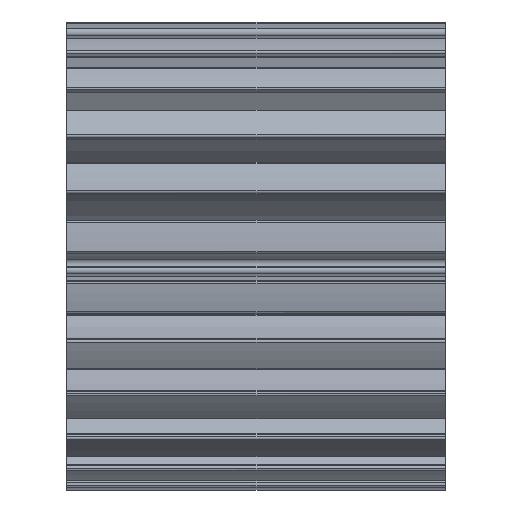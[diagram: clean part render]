
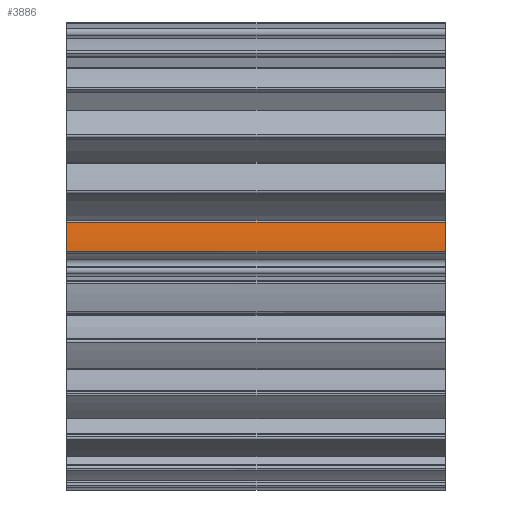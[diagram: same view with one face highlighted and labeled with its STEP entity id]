
A CAD part, left-side view. The second image highlights one B-rep face of the part: STEP entity #3886.
In plain terms, the highlighted cylindrical face has radius 49.5 mm (diameter 99 mm), a partial arc.
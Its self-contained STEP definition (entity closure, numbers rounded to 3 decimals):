
#33 = EDGE_CURVE ( 'NONE', #1651, #9164, #900, .T. ) ;
#900 = CIRCLE ( 'NONE', #8706, 49.5 ) ;
#1126 = EDGE_LOOP ( 'NONE', ( #6908, #1694, #11651, #13164 ) ) ;
#1651 = VERTEX_POINT ( 'NONE', #12051 ) ;
#1694 = ORIENTED_EDGE ( 'NONE', *, *, #33, .T. ) ;
#1729 = VERTEX_POINT ( 'NONE', #3255 ) ;
#2408 = VECTOR ( 'NONE', #12884, 1000. ) ;
#2580 = CIRCLE ( 'NONE', #5520, 49.5 ) ;
#3255 = CARTESIAN_POINT ( 'NONE',  ( -49.49, 50., 1. ) ) ;
#3873 = EDGE_CURVE ( 'NONE', #8839, #1729, #2580, .T. ) ;
#3886 = ADVANCED_FACE ( 'NONE', ( #8917 ), #10238, .T. ) ;
#4611 = EDGE_CURVE ( 'NONE', #1729, #1651, #13713, .T. ) ;
#4676 = CARTESIAN_POINT ( 'NONE',  ( 0., 0., 0. ) ) ;
#4708 = CARTESIAN_POINT ( 'NONE',  ( -49.49, 0., 1. ) ) ;
#4735 = CARTESIAN_POINT ( 'NONE',  ( 0., 50., 0. ) ) ;
#5222 = DIRECTION ( 'NONE',  ( 0., 1., 0. ) ) ;
#5520 = AXIS2_PLACEMENT_3D ( 'NONE', #4735, #13301, #5966 ) ;
#5966 = DIRECTION ( 'NONE',  ( 0., 0., 1. ) ) ;
#6908 = ORIENTED_EDGE ( 'NONE', *, *, #4611, .T. ) ;
#7746 = CARTESIAN_POINT ( 'NONE',  ( -48.977, 0., 7.174 ) ) ;
#7995 = AXIS2_PLACEMENT_3D ( 'NONE', #4676, #9610, #12061 ) ;
#8394 = DIRECTION ( 'NONE',  ( 0., -1., 0. ) ) ;
#8706 = AXIS2_PLACEMENT_3D ( 'NONE', #12555, #5222, #13783 ) ;
#8839 = VERTEX_POINT ( 'NONE', #12027 ) ;
#8908 = LINE ( 'NONE', #7746, #2408 ) ;
#8917 = FACE_OUTER_BOUND ( 'NONE', #1126, .T. ) ;
#9164 = VERTEX_POINT ( 'NONE', #12561 ) ;
#9610 = DIRECTION ( 'NONE',  ( 0., 1., 0. ) ) ;
#10009 = VECTOR ( 'NONE', #8394, 1000. ) ;
#10238 = CYLINDRICAL_SURFACE ( 'NONE', #7995, 49.5 ) ;
#11651 = ORIENTED_EDGE ( 'NONE', *, *, #14102, .T. ) ;
#12027 = CARTESIAN_POINT ( 'NONE',  ( -48.977, 50., 7.174 ) ) ;
#12051 = CARTESIAN_POINT ( 'NONE',  ( -49.49, -30., 1. ) ) ;
#12061 = DIRECTION ( 'NONE',  ( 0., 0., 1. ) ) ;
#12555 = CARTESIAN_POINT ( 'NONE',  ( 0., -30., 0. ) ) ;
#12561 = CARTESIAN_POINT ( 'NONE',  ( -48.977, -30., 7.174 ) ) ;
#12884 = DIRECTION ( 'NONE',  ( 0., 1., 0. ) ) ;
#13164 = ORIENTED_EDGE ( 'NONE', *, *, #3873, .T. ) ;
#13301 = DIRECTION ( 'NONE',  ( 0., -1., 0. ) ) ;
#13713 = LINE ( 'NONE', #4708, #10009 ) ;
#13783 = DIRECTION ( 'NONE',  ( 0., 0., 1. ) ) ;
#14102 = EDGE_CURVE ( 'NONE', #9164, #8839, #8908, .T. ) ;
